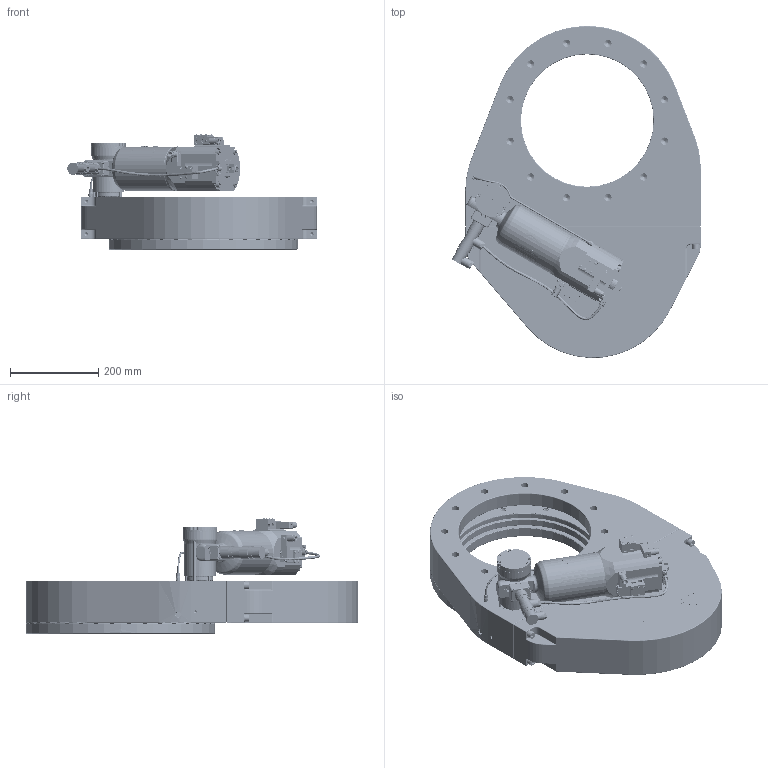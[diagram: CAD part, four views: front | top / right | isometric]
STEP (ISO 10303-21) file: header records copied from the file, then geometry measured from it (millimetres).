
FILE_DESCRIPTION(/* description */ (''),/* implementation_level */ '2;1');
FILE_NAME(/* name */ '1047405996_203.stp',/* time_stamp */ '2019-03-11T14:53:20+01:00',/* author */ (''),/* organization */ (''),/* preprocessor_version */ 'ST-DEVELOPER v16',/* originating_system */ 'SIEMENS PLM Software NX 11.0',/* authorisation */ '');
FILE_SCHEMA (('AP203_CONFIGURATION_CONTROLLED_3D_DESIGN_OF_MECHANICAL_PARTS_AND_ASSEMBLIES_MIM_LF { 1 0 10303 403 2 1 2}'));
Length unit declared in the file: millimetre
Products named in the file (83): N-8406-013_3.2; N-8406-013_2.1; 73662-01.1; 202839_1.2; N-6121-039.1; N-6099-417.1; 75429-01_26521ID; 69252-01_26524ID; 69252-01_26523ID; 82555-01; N-8210-239; 82610-01; N-8406-007; N-8406-551; N-6030-011; 69672-01; N-8406-006_1; 467882; 437235; 77379-01.1; T-9001-055.1; N-6016-478.2; 69846-01; n-6024-531; N-7557-016_1.1; N-7557-018.1; N-7557-016_2.1; N-6024-524.1; N-5018-005.1; N-8504-005.2; 229270.2_26385ID; 246211.3; 308105.5; 244151.3; 311105.1; 358909.3; N-6071-446.1; 245276.2; 322093.2; N-6203-412.1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
Assembly tree (147 placements, depth 6):
  841983
    548924_NX-ARRAGMNTZUSAMMENST1
      548930
      N-6091-505.1  x6
      N-7636-200.2
    324415
    333016.4
      309656.1
      309711.1
      308477.4
      265277.4
      222717.1  x2
      320171.1
      310276.1
      265274.6
      244112.1
      328914.2
      328911.1
      210139.2
      229712.2
      328908.4
      N-6121-017.2  x4
      N-7607-023.1
      236055.1  x2
      N-6091-462.1  x2
      N-6072-439.1
      N-5002-498.1
      N-6005-828.1  x4
      248044.2
      N-6203-412.1
      322093.2  x3
      245276.2
      N-6071-446.1
      358909.3
      311105.1
      244151.3
      308105.5
      246211.3
    n-6005-844.1  x4
    224833.1  x12
    n-6134-410  x4
    549800_MODEL
      229270.2_26385ID
    394129
      310926.1
        N-8504-005.2
        71852-r1_NX-ARRAGMNTZUSAMMENSTELLUNG
          N-8406-006_1
          69672-01
          N-6030-011  x4
          N-8406-551  x2
          N-8406-007
          82610-01
          N-8210-239  x4
          82555-01
        n-6024-531  x4
        69428-r1_MODELNX-ARRAGMNTZUSAMMENST1
          69252-01_26523ID
          69252-01_26524ID
          75429-01_26521ID
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Bounding box: 564.84 x 751.79 x 260.82 mm (x, y, z)
Volume: 14608573.4 mm3; surface area: 2219922.4 mm2
Topology: 185 solids, 185 shells, 6620 faces, 16482 edges, 10571 vertices
Faces by surface type: plane 3435, cylinder 1294, bspline 540, cone 492, torus 459, extrusion 334, sphere 62, revolution 4
Full cylindrical faces by diameter (mm): 0.5 x2, 1 x10, 1.2 x10, 1.4 x2, 1.5 x14, 1.6 x6, 1.95 x4, 2 x5, 2.115 x4, 2.2 x4, 2.25 x4, 2.3 x5, 2.5 x31, 2.7 x4, 2.75 x12, 2.8 x1, 2.856 x4, 3 x39, 3.2 x5, 3.26 x3, 3.3 x9, 3.4 x14, 3.5 x15, 3.9 x4, 3.989 x2, 4 x19, 4.054 x2, 4.134 x1, 4.16 x2, 4.2 x9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
Entity records: 198721 total; most frequent: CARTESIAN_POINT 63489, ORIENTED_EDGE 24662, DIRECTION 22963, EDGE_CURVE 12331, AXIS2_PLACEMENT_3D 8605, VERTEX_POINT 8552, EDGE_LOOP 7178, VECTOR 5749
